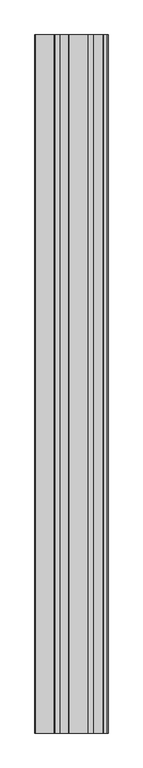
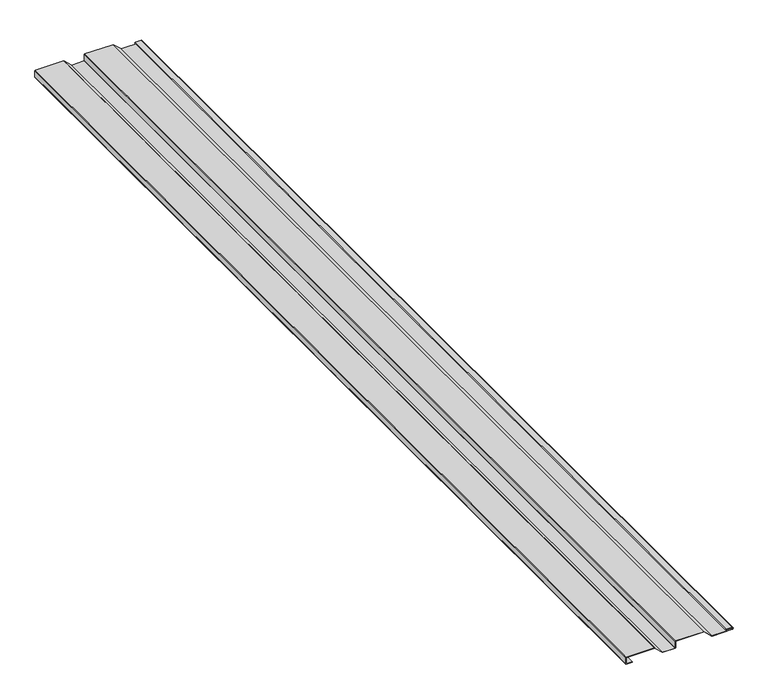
"""IFC4 building model written with IfcOpenShell, lengths in millimetres: proxy geometry, Perception-Collection_Panel_PC-40_AEP_Span : Perception Collection PC40-12c - 20ga."""

from ifc_helpers import new_model, si_unit, point, frame, frame_2d, origin, place, context, project, spatial, polyline, circle_curve, trimmed, segment, composite_curve, outline, extrude, source, transform, mapped, element, save


def generic_models_0ef347b0(model_context):
    return source(origin(), model_context, "Body", "SweptSolid", [
        extrude(outline(composite_curve([segment(trimmed(circle_curve(frame_2d((20.9567064, -80.1164344)), 1.444969), [point((22.0134899, -79.1309679))], [point((22.4016755, -80.1164344))], False, "CARTESIAN"), True, "CONTINUOUS"), segment(polyline([(22.4016755, -80.1164344), (22.4016755, -164.1123389)]), True, "CONTINUOUS"), segment(trimmed(circle_curve(frame_2d((20.9567064, -164.1123389)), 1.444969), [point((22.4016755, -164.1123389))], [point((20.9567064, -165.5573079))], False, "CARTESIAN"), True, "CONTINUOUS"), segment(polyline([(20.9567064, -165.5573079), (2.344129, -165.5573079)]), True, "CONTINUOUS"), segment(trimmed(circle_curve(frame_2d((2.344129, -164.1123389)), 1.444969), [point((2.344129, -165.5573079))], [point((0.89916, -164.1123389))], False, "CARTESIAN"), True, "CONTINUOUS"), segment(polyline([(0.89916, -164.1123389), (0.89916, -147.1265804), (1.8025169, -147.1265804), (1.8025169, -164.1068745)]), True, "CONTINUOUS"), segment(trimmed(circle_curve(frame_2d((2.3476799, -164.1068745)), 0.5451629), [point((1.8025169, -164.1068745))], [point((2.2871424, -164.6486658))], True, "CARTESIAN"), True, "CONTINUOUS"), segment(polyline([(2.2871424, -164.6486658), (20.8908233, -164.6486658)]), True, "CONTINUOUS"), segment(trimmed(circle_curve(frame_2d((20.9473479, -164.0826934)), 0.568788), [point((20.8908233, -164.6486658))], [point((21.5161358, -164.0826934))], True, "CARTESIAN"), True, "CONTINUOUS"), segment(polyline([(21.5161358, -164.0826934), (21.5161358, -79.9014345), (0.2794369, -57.1424471)]), True, "CONTINUOUS"), segment(trimmed(circle_curve(frame_2d((1.0345739, -56.4378192)), 1.0328273), [point((0.2794369, -57.1424471))], [point((0.0057765, -56.346669))], False, "CARTESIAN"), True, "CONTINUOUS"), segment(polyline([(0.0057765, -56.346669), (0.0057765, -18.8333146)]), True, "CONTINUOUS"), segment(trimmed(circle_curve(frame_2d((1.6212298, -18.8333146)), 1.6154533), [point((0.0057765, -18.8333146))], [point((1.6212298, -17.2178614))], False, "CARTESIAN"), True, "CONTINUOUS"), segment(polyline([(1.6212298, -17.2178614), (20.9501005, -17.2178614)]), True, "CONTINUOUS"), segment(trimmed(circle_curve(frame_2d((20.9501005, -16.6658611)), 0.5520003), [point((20.9501005, -17.2178614))], [point((21.5021008, -16.6658611))], True, "CARTESIAN"), True, "CONTINUOUS"), segment(polyline([(21.5021008, -16.6658611), (21.5021008, 67.5450433), (0.3437805, 90.2345639)]), True, "CONTINUOUS"), segment(trimmed(circle_curve(frame_2d((1.6208151, 91.2428955)), 1.6271294), [point((0.3437805, 90.2345639))], [point((-0.0008294, 91.1094071))], False, "CARTESIAN"), True, "CONTINUOUS"), segment(polyline([(-0.0008294, 91.1094071), (-0.0008294, 150.6989006)]), True, "CONTINUOUS"), segment(trimmed(circle_curve(frame_2d((3.1591665, 150.6989006)), 3.1599959), [point((-0.0008294, 150.6989006))], [point((6.3191624, 150.6989006))], False, "CARTESIAN"), True, "CONTINUOUS"), segment(polyline([(6.3191624, 150.6989006), (6.3191624, 133.2634323)]), True, "CONTINUOUS"), segment(trimmed(circle_curve(frame_2d((5.0587601, 133.2634323)), 1.2604023), [point((6.3191624, 133.2634323))], [point((3.7983579, 133.2634323))], False, "CARTESIAN"), True, "CONTINUOUS"), segment(polyline([(3.7983579, 133.2634323), (3.7983579, 144.4668573), (4.6975179, 144.4668573), (4.6975179, 133.2634323)]), True, "CONTINUOUS"), segment(trimmed(circle_curve(frame_2d((5.0587601, 133.2634323)), 0.3612423), [point((4.6975179, 133.2634323))], [point((5.4200024, 133.2634323))], True, "CARTESIAN"), True, "CONTINUOUS"), segment(polyline([(5.4200024, 133.2634323), (5.4200024, 150.6989006)]), True, "CONTINUOUS"), segment(trimmed(circle_curve(frame_2d((3.1591665, 150.6989006)), 2.2608359), [point((5.4200024, 150.6989006))], [point((0.8983306, 150.6989006))], True, "CARTESIAN"), True, "CONTINUOUS"), segment(polyline([(0.8983306, 150.6989006), (0.8983306, 90.9583013), (22.0130752, 68.3155099)]), True, "CONTINUOUS"), segment(trimmed(circle_curve(frame_2d((20.9329223, 67.3300434)), 1.4621472), [point((22.0130752, 68.3155099))], [point((22.3950695, 67.3300434))], False, "CARTESIAN"), True, "CONTINUOUS"), segment(polyline([(22.3950695, 67.3300434), (22.3950695, -16.6658611)]), True, "CONTINUOUS"), segment(trimmed(circle_curve(frame_2d((20.9501005, -16.6658611)), 1.444969), [point((22.3950695, -16.6658611))], [point((20.9501005, -18.1108301))], False, "CARTESIAN"), True, "CONTINUOUS"), segment(polyline([(20.9501005, -18.1108301), (1.6274211, -18.1108301)]), True, "CONTINUOUS"), segment(trimmed(circle_curve(frame_2d((1.6274211, -18.8333146)), 0.7224845), [point((1.6274211, -18.1108301))], [point((0.9049365, -18.8333146))], True, "CARTESIAN"), True, "CONTINUOUS"), segment(polyline([(0.9049365, -18.8333146), (0.9049365, -56.4948158), (22.0134899, -79.1309679)]), True, "CONTINUOUS")], self_intersect=False)), frame((0.0, -3048.0, 0.0), z_axis=(0.0, 1.0, 0.0), x_axis=(0.0, 0.0, 1.0)), (0.0, 0.0, 1.0), 3048.0),
    ])


if __name__ == "__main__":
    model = new_model("IFC4")
    model_context = context("Model", 3, world=origin())
    ifc_project = project(units=[si_unit("LENGTHUNIT", "METRE", prefix="MILLI")], contexts=[model_context])
    site = spatial("IfcSite", under=ifc_project)
    building = spatial("IfcBuilding", under=site)
    placement = place(None, origin())
    generic_models_shape = generic_models_0ef347b0(model_context)
    element("IfcBuildingElementProxy", 1, Name="Perception-Collection_Panel_PC-40_AEP_Span : Perception Collection PC40-12c - 20ga", ObjectType="Perception-Collection_Panel_PC-40_AEP_Span : Perception Collection PC40-12c - 20ga", at=placement, inside=building, context=model_context, shape_type="MappedRepresentation", body=[
        mapped(generic_models_shape, transform((0.0, 0.0, 0.0), x_axis=(1.0, 0.0, 0.0), y_axis=(0.0, 1.0, 0.0), z_axis=(0.0, 0.0, 1.0))),
    ])
    save(model, "model.ifc")
